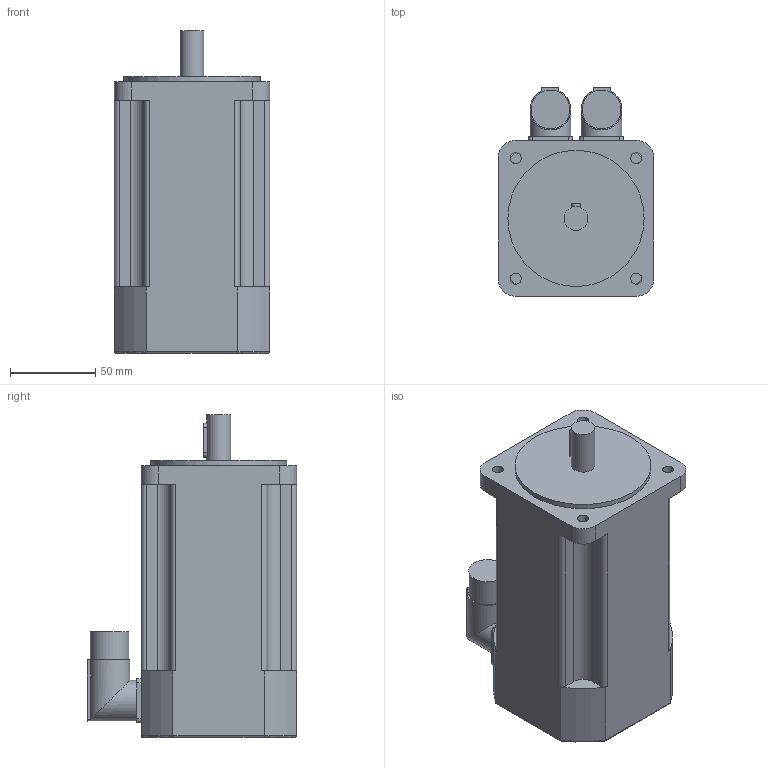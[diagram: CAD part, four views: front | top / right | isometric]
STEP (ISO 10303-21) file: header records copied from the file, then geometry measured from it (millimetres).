
FILE_DESCRIPTION(/* description */ (''),/* implementation_level */ '2;1');
FILE_NAME(/* name */ '\\Lafnas01\disegni\Archivi Lafert\3D\CAD 3D\MODELLI\Assiemi clienti\Serad\Modelli 3D Serad\B56Q\Resolver\Res Without Brake\B56G5Qxx6A052033.ipt.stp',/* time_stamp */ '2015-09-07T10:50:22+02:00',/* author */ ('Pastrello Ylenia'),/* organization */ (''),/* preprocessor_version */ 'ST-DEVELOPER v15.6',/* originating_system */ 'Autodesk Inventor 2015',/* authorisation */ '');
FILE_SCHEMA (('AUTOMOTIVE_DESIGN { 1 0 10303 214 3 1 1 }'));
Length unit declared in the file: millimetre
Products named in the file (1): B56G5Qxx6A052033
Bounding box: 91.3 x 122.8 x 189.5 mm (x, y, z)
Volume: 1247238.7 mm3; surface area: 83215.2 mm2
Topology: 1 solids, 1 shells, 99 faces, 260 edges, 170 vertices
Faces by surface type: plane 49, cylinder 46, torus 4
Full cylindrical faces by diameter (mm): 6.5 x4, 14 x1, 22.7 x2, 24 x2, 80 x1
Entity records: 3176 total; most frequent: CARTESIAN_POINT 658, DIRECTION 534, ORIENTED_EDGE 500, EDGE_CURVE 250, AXIS2_PLACEMENT_3D 194, VERTEX_POINT 170, LINE 146, VECTOR 146
